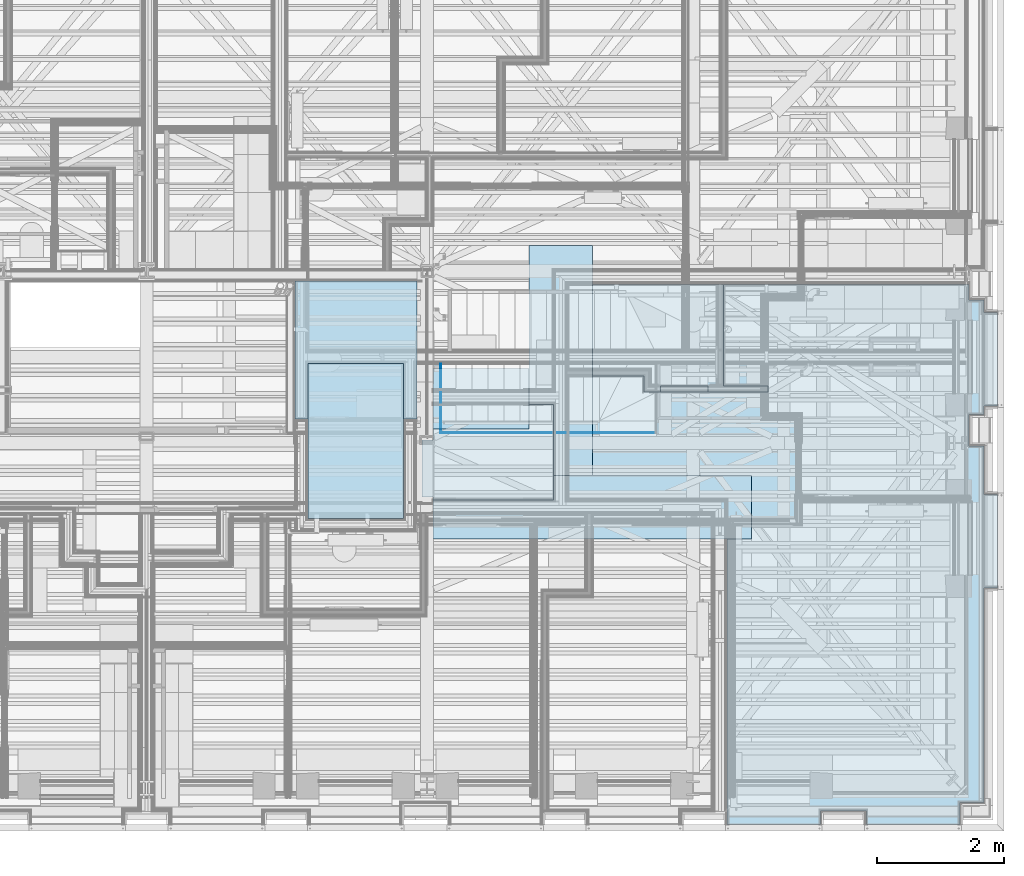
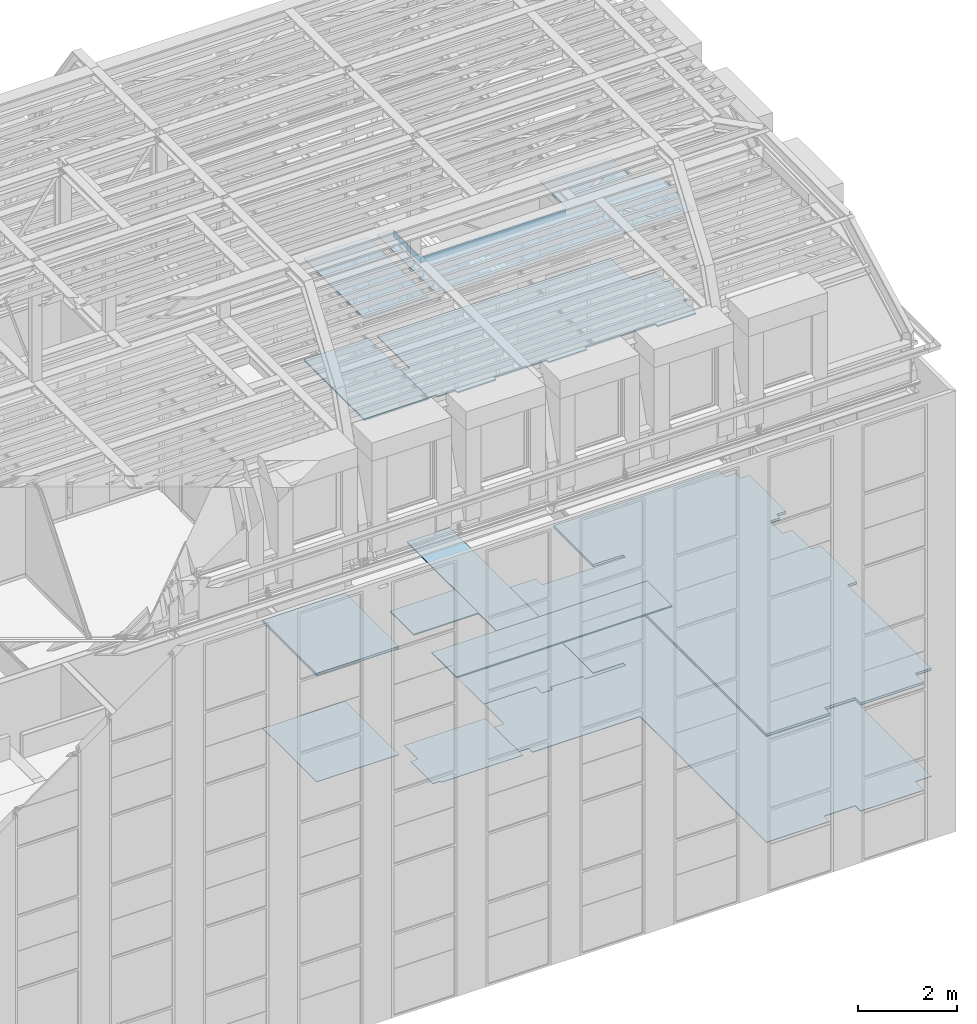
# One storey, part 92 of 183: 22 slabs.
"""IFC2X3 building model written with IfcOpenShell, lengths in metres."""

import ifcopenshell
import ifcopenshell.guid

model = None  # the IFC model being written
_history = None  # IfcOwnerHistory: only IFC2X3 demands one
_inside = {}  # id of a spatial element -> (the spatial element, [elements in it])
_under = {}  # id of a project, library or spatial element -> (it, [spatial elements below it])
_declared = {}  # id of a project -> (the project, [libraries it declares])
_typed = {}  # id of a type object -> (the type object, [elements of that type])
_made_of = {}  # id of a material, layer set ... -> (it, [elements and type objects made of it])


def new_model(schema):
    """Start an empty IFC model of exactly this schema.

    Asked for "IFC4X3", IfcOpenShell would pick the latest addendum, in which some entities
    have other attributes; the version numbers below select the first issue.
    IFC2X3 requires an IfcOwnerHistory on every rooted entity: one is made here for all.
    """
    global model, _history
    if schema == "IFC4X3":
        model = ifcopenshell.file(schema_version=(4, 3, 0, 0))
    else:
        model = ifcopenshell.file(schema=schema)
    _inside.clear()
    _under.clear()
    _declared.clear()
    _typed.clear()
    _made_of.clear()
    _history = None
    if model.schema == "IFC2X3":
        org = make("IfcOrganization", Name="unknown")
        user = make(
            "IfcPersonAndOrganization",
            ThePerson=make("IfcPerson", FamilyName="unknown"),
            TheOrganization=org,
        )
        app = make(
            "IfcApplication",
            ApplicationDeveloper=org,
            Version="unknown",
            ApplicationFullName="unknown",
            ApplicationIdentifier="unknown",
        )
        _history = make(
            "IfcOwnerHistory",
            OwningUser=user,
            OwningApplication=app,
            ChangeAction="ADDED",
            CreationDate=0,
        )
    return model


def make(cls, **values):
    """One entity of the class cls with the attributes given. An attribute that is None is left unset."""
    return model.create_entity(
        cls, **{name: value for name, value in values.items() if value is not None}
    )


def entity(cls, *values):
    """Any entity or typed value of the class cls, its attributes in the order of the schema. None: left unset."""
    e = model.create_entity(cls)
    for i, value in enumerate(values):
        if value is not None:
            e[i] = value
    return e


def rooted(cls, **values):
    """An entity with a GlobalId (a new one), such as an element, a storey or a relation."""
    return make(cls, GlobalId=ifcopenshell.guid.new(), OwnerHistory=_history, **values)


def si_unit(unit_type, name, prefix=None):
    """IfcSIUnit, for example si_unit("LENGTHUNIT", "METRE", prefix="MILLI")."""
    return make("IfcSIUnit", UnitType=unit_type, Prefix=prefix, Name=name)


def converted_unit(unit_type, name, factor, base, dimensions=None, offset=None):
    """IfcConversionBasedUnit, such as the inch: factor (a typed value) times the base unit."""
    return make(
        "IfcConversionBasedUnit"
        if offset is None
        else "IfcConversionBasedUnitWithOffset",
        ConversionOffset=offset,
        Dimensions=None
        if dimensions is None
        else entity("IfcDimensionalExponents", *dimensions),
        UnitType=unit_type,
        Name=name,
        ConversionFactor=make(
            "IfcMeasureWithUnit", ValueComponent=factor, UnitComponent=base
        ),
    )


def derived_unit(unit_type, elements):
    """IfcDerivedUnit: a product of units, each with its exponent."""
    return make(
        "IfcDerivedUnit",
        Elements=[
            make("IfcDerivedUnitElement", Unit=unit, Exponent=power)
            for unit, power in elements
        ],
        UnitType=unit_type,
    )


def money_unit(currency):
    """IfcMonetaryUnit."""
    return make("IfcMonetaryUnit", Currency=currency)


def assignment(units):
    """IfcUnitAssignment: the units of a project."""
    return None if units is None else make("IfcUnitAssignment", Units=units)


def point(xyz):
    """IfcCartesianPoint."""
    return None if xyz is None else make("IfcCartesianPoint", Coordinates=xyz)


def direction(xyz):
    """IfcDirection."""
    return None if xyz is None else make("IfcDirection", DirectionRatios=xyz)


def frame(location, z_axis=None, x_axis=None):
    """IfcAxis2Placement3D, a coordinate frame: its origin and axes. An axis left out is left unset."""
    return make(
        "IfcAxis2Placement3D",
        Location=point(location),
        Axis=direction(z_axis),
        RefDirection=direction(x_axis),
    )


def origin_with_axes():
    """The frame at (0, 0, 0) with the z axis (0, 0, 1) and the x axis (1, 0, 0) written out."""
    return frame((0.0, 0.0, 0.0), z_axis=(0.0, 0.0, 1.0), x_axis=(1.0, 0.0, 0.0))


def place(relative_to, where):
    """IfcLocalPlacement: puts the frame where relative to a parent placement (None: the world)."""
    return make(
        "IfcLocalPlacement", PlacementRelTo=relative_to, RelativePlacement=where
    )


def context(
    kind, dimensions, precision=None, world=None, true_north=None, identifier=None
):
    """IfcGeometricRepresentationContext, for example the 3D "Model" context."""
    return make(
        "IfcGeometricRepresentationContext",
        ContextIdentifier=identifier,
        ContextType=kind,
        CoordinateSpaceDimension=dimensions,
        Precision=precision,
        WorldCoordinateSystem=world,
        TrueNorth=true_north,
    )


def subcontext(parent, identifier, kind, view, scale=None):
    """IfcGeometricRepresentationSubContext, for example "Body" below "Model"."""
    return make(
        "IfcGeometricRepresentationSubContext",
        ContextIdentifier=identifier,
        ContextType=kind,
        ParentContext=parent,
        TargetScale=scale,
        TargetView=view,
    )


def project(units=None, contexts=None):
    """IfcProject with its units and contexts."""
    return rooted(
        "IfcProject",
        Name="project",
        RepresentationContexts=contexts,
        UnitsInContext=assignment(units),
    )


def spatial(cls, under=None, at=None, **own):
    """A site, building, storey or space (cls), placed at a placement, below another one or the project."""
    s = rooted(cls, ObjectPlacement=at, **own)
    if under is not None:
        _under.setdefault(under.id(), (under, []))[1].append(s)
    return s


def faces_of(points, faces, orient=None, outer=None):
    """IfcFace entities. A face is a list of loops; a loop is a list of indices into points, from 0.

    orient and outer hold one flag for each loop. By default every Orientation is true, the
    first loop of a face is its IfcFaceOuterBound and the others are IfcFaceBound.
    """
    made = []
    for i, loops in enumerate(faces):
        bounds = []
        for j, loop in enumerate(loops):
            is_outer = j == 0 if outer is None else outer[i][j]
            bounds.append(
                make(
                    "IfcFaceOuterBound" if is_outer else "IfcFaceBound",
                    Bound=make("IfcPolyLoop", Polygon=[points[k] for k in loop]),
                    Orientation=True if orient is None else orient[i][j],
                )
            )
        made.append(make("IfcFace", Bounds=bounds))
    return made


def faceted_brep(points, faces, orient=None, outer=None, voids=None):
    """IfcFacetedBrep: a solid bounded by flat faces; with voids (closed shells), ...WithVoids."""
    shared = [point(p) for p in points]
    hull = make("IfcClosedShell", CfsFaces=faces_of(shared, faces, orient, outer))
    if voids is None:
        return make("IfcFacetedBrep", Outer=hull)
    return make(
        "IfcFacetedBrepWithVoids",
        Outer=hull,
        Voids=[
            make(cls, CfsFaces=faces_of(shared, fs, o, b)) for cls, fs, o, b in voids
        ],
    )


def shape(context_of_items, identifier, shape_type, items):
    """IfcShapeRepresentation: the items that make up one representation, for example the "Body"."""
    return make(
        "IfcShapeRepresentation",
        ContextOfItems=context_of_items,
        RepresentationIdentifier=identifier,
        RepresentationType=shape_type,
        Items=items,
    )


def material(Name=None, Category=None):
    """IfcMaterial."""
    return make("IfcMaterial", Name=Name, Category=Category)


def made_of(thing, what):
    """Note that an element or type object is made of a material, layer set ...; save() writes the relation."""
    if what is not None:
        _made_of.setdefault(what.id(), (what, []))[1].append(thing)
    return thing


def type_object(cls, material=None, **own):
    """A type object (cls), such as IfcWallType, which elements share."""
    return made_of(rooted(cls, **own), material)


def element(
    cls,
    number,
    at=None,
    inside=None,
    cuts=None,
    type_object=None,
    material=None,
    context=None,
    identifier="Body",
    shape_type=None,
    held_by="IfcProductDefinitionShape",
    body=None,
    shapes=None,
    **own,
):
    """One element of the class cls, such as IfcWall. Its Tag is "e" and its number.

    at: its placement. inside: the storey or other place that contains it. cuts: it is an
    opening in that element (IfcRelVoidsElement). A single representation is given by context,
    identifier, shape_type and body (its items); several are given by shapes. held_by: the class
    of the entity that holds the representations. save() writes the other relations.
    """
    e = rooted(cls, Tag="e%d" % number, ObjectPlacement=at, **own)
    if body is not None:
        shapes = [shape(context, identifier, shape_type, body)]
    if shapes is not None:
        e.Representation = make(held_by, Representations=shapes)
    if inside is not None:
        _inside.setdefault(inside.id(), (inside, []))[1].append(e)
    if cuts is not None:
        rooted(
            "IfcRelVoidsElement", RelatingBuildingElement=cuts, RelatedOpeningElement=e
        )
    if type_object is not None:
        _typed.setdefault(type_object.id(), (type_object, []))[1].append(e)
    return made_of(e, material)


def aggregate(whole, parts):
    """IfcRelAggregates: a whole, such as a stair, and the parts it consists of."""
    return rooted("IfcRelAggregates", RelatingObject=whole, RelatedObjects=parts)


def save(model, path):
    """Write the relations noted so far, then the file.

    IfcRelAggregates (storeys below a building ...), IfcRelContainedInSpatialStructure (elements
    in a storey), IfcRelDefinesByType, IfcRelAssociatesMaterial and IfcRelDeclares: one each for
    every whole, place, type object, material and project.
    """
    for whole, parts in _under.values():
        aggregate(whole, parts)
    for where, things in _inside.values():
        rooted(
            "IfcRelContainedInSpatialStructure",
            RelatedElements=things,
            RelatingStructure=where,
        )
    for kind, things in _typed.values():
        rooted("IfcRelDefinesByType", RelatedObjects=things, RelatingType=kind)
    for what, things in _made_of.values():
        rooted("IfcRelAssociatesMaterial", RelatedObjects=things, RelatingMaterial=what)
    for by, libraries in _declared.values():
        rooted("IfcRelDeclares", RelatingContext=by, RelatedDefinitions=libraries)
    model.write(path)


model = new_model("IFC2X3")

# Units and contexts
model_context = context("Model", 3, precision=1e-05, world=origin_with_axes(), true_north=direction((0.0, 1.0)))
body_context = subcontext(model_context, "Body", "Model", "MODEL_VIEW", scale=1.0)
ifc_project = project(units=[si_unit("LENGTHUNIT", "METRE"), si_unit("AREAUNIT", "SQUARE_METRE"), si_unit("VOLUMEUNIT", "CUBIC_METRE"), si_unit("ABSORBEDDOSEUNIT", "GRAY"), si_unit("AMOUNTOFSUBSTANCEUNIT", "MOLE"), si_unit("DOSEEQUIVALENTUNIT", "SIEVERT"), si_unit("ELECTRICCAPACITANCEUNIT", "FARAD"), si_unit("ELECTRICCHARGEUNIT", "COULOMB"), si_unit("ELECTRICCONDUCTANCEUNIT", "SIEMENS"), si_unit("ELECTRICCURRENTUNIT", "AMPERE"), si_unit("ELECTRICRESISTANCEUNIT", "OHM"), si_unit("ELECTRICVOLTAGEUNIT", "VOLT"), si_unit("ENERGYUNIT", "JOULE"), si_unit("FORCEUNIT", "NEWTON"), si_unit("FREQUENCYUNIT", "HERTZ"), si_unit("ILLUMINANCEUNIT", "LUX"), si_unit("INDUCTANCEUNIT", "HENRY"), si_unit("LUMINOUSFLUXUNIT", "LUMEN"), si_unit("LUMINOUSINTENSITYUNIT", "CANDELA"), si_unit("MAGNETICFLUXDENSITYUNIT", "TESLA"), si_unit("MAGNETICFLUXUNIT", "WEBER"), si_unit("MASSUNIT", "GRAM"), converted_unit("PLANEANGLEUNIT", "degree", entity("IfcReal", 0.0174532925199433), si_unit("PLANEANGLEUNIT", "RADIAN"), dimensions=[0, 0, 0, 0, 0, 0, 0]), si_unit("POWERUNIT", "WATT"), si_unit("PRESSUREUNIT", "PASCAL"), si_unit("RADIOACTIVITYUNIT", "BECQUEREL"), si_unit("SOLIDANGLEUNIT", "STERADIAN"), si_unit("THERMODYNAMICTEMPERATUREUNIT", "KELVIN"), si_unit("TIMEUNIT", "SECOND"), derived_unit("ACCELERATIONUNIT", [(si_unit("LENGTHUNIT", "METRE"), 1), (si_unit("TIMEUNIT", "SECOND"), -2)]), derived_unit("ANGULARVELOCITYUNIT", [(converted_unit("PLANEANGLEUNIT", "degree", entity("IfcReal", 0.0174532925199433), si_unit("PLANEANGLEUNIT", "RADIAN"), dimensions=[0, 0, 0, 0, 0, 0, 0]), 1), (si_unit("TIMEUNIT", "SECOND"), -1)]), derived_unit("CURVATUREUNIT", [(converted_unit("PLANEANGLEUNIT", "degree", entity("IfcReal", 0.0174532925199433), si_unit("PLANEANGLEUNIT", "RADIAN"), dimensions=[0, 0, 0, 0, 0, 0, 0]), 1), (si_unit("LENGTHUNIT", "METRE"), -1)]), derived_unit("DYNAMICVISCOSITYUNIT", [(si_unit("PRESSUREUNIT", "PASCAL"), 1), (si_unit("TIMEUNIT", "SECOND"), 1)]), derived_unit("HEATFLUXDENSITYUNIT", [(si_unit("POWERUNIT", "WATT"), 1), (si_unit("LENGTHUNIT", "METRE"), -2)]), derived_unit("HEATINGVALUEUNIT", [(si_unit("ENERGYUNIT", "JOULE"), 1), (si_unit("MASSUNIT", "GRAM"), -1)]), derived_unit("INTEGERCOUNTRATEUNIT", [(si_unit("TIMEUNIT", "SECOND"), -1)]), derived_unit("IONCONCENTRATIONUNIT", [(si_unit("MASSUNIT", "GRAM"), 1), (si_unit("VOLUMEUNIT", "CUBIC_METRE"), -1)]), derived_unit("ISOTHERMALMOISTURECAPACITYUNIT", [(si_unit("VOLUMEUNIT", "CUBIC_METRE"), 1), (si_unit("MASSUNIT", "GRAM"), -1)]), derived_unit("KINEMATICVISCOSITYUNIT", [(si_unit("AREAUNIT", "SQUARE_METRE"), 1), (si_unit("TIMEUNIT", "SECOND"), -1)]), derived_unit("LINEARFORCEUNIT", [(si_unit("FORCEUNIT", "NEWTON"), 1), (si_unit("LENGTHUNIT", "METRE"), -1)]), derived_unit("LINEARMOMENTUNIT", [(si_unit("FORCEUNIT", "NEWTON"), 1), (si_unit("LENGTHUNIT", "METRE"), -1)]), derived_unit("LINEARSTIFFNESSUNIT", [(si_unit("FORCEUNIT", "NEWTON"), 1), (si_unit("LENGTHUNIT", "METRE"), -1)]), derived_unit("LINEARVELOCITYUNIT", [(si_unit("LENGTHUNIT", "METRE"), 1), (si_unit("TIMEUNIT", "SECOND"), -1)]), derived_unit("LUMINOUSINTENSITYDISTRIBUTIONUNIT", [(si_unit("LUMINOUSINTENSITYUNIT", "CANDELA"), 1), (si_unit("LUMINOUSFLUXUNIT", "LUMEN"), -1)]), derived_unit("MASSDENSITYUNIT", [(si_unit("MASSUNIT", "GRAM"), 1), (si_unit("VOLUMEUNIT", "CUBIC_METRE"), -1)]), derived_unit("MASSFLOWRATEUNIT", [(si_unit("MASSUNIT", "GRAM"), 1), (si_unit("TIMEUNIT", "SECOND"), -1)]), derived_unit("MASSPERLENGTHUNIT", [(si_unit("MASSUNIT", "GRAM"), 1), (si_unit("LENGTHUNIT", "METRE"), -1)]), derived_unit("MODULUSOFELASTICITYUNIT", [(si_unit("FORCEUNIT", "NEWTON"), 1), (si_unit("AREAUNIT", "SQUARE_METRE"), -1)]), derived_unit("MODULUSOFLINEARSUBGRADEREACTIONUNIT", [(si_unit("FORCEUNIT", "NEWTON"), 1), (si_unit("LENGTHUNIT", "METRE"), -2)]), derived_unit("MODULUSOFROTATIONALSUBGRADEREACTIONUNIT", [(si_unit("FORCEUNIT", "NEWTON"), 1), (si_unit("LENGTHUNIT", "METRE"), 1)]), derived_unit("MODULUSOFSUBGRADEREACTIONUNIT", [(si_unit("FORCEUNIT", "NEWTON"), 1), (si_unit("VOLUMEUNIT", "CUBIC_METRE"), -1)]), derived_unit("MOISTUREDIFFUSIVITYUNIT", [(si_unit("VOLUMEUNIT", "CUBIC_METRE"), 1), (si_unit("TIMEUNIT", "SECOND"), -1)]), derived_unit("MOLECULARWEIGHTUNIT", [(si_unit("MASSUNIT", "GRAM"), 1), (si_unit("AMOUNTOFSUBSTANCEUNIT", "MOLE"), -1)]), derived_unit("PLANARFORCEUNIT", [(si_unit("FORCEUNIT", "NEWTON"), 1), (si_unit("LENGTHUNIT", "METRE"), -2)]), derived_unit("ROTATIONALFREQUENCYUNIT", [(si_unit("TIMEUNIT", "SECOND"), -1)]), derived_unit("ROTATIONALMASSUNIT", [(si_unit("MASSUNIT", "GRAM"), 1), (si_unit("LENGTHUNIT", "METRE"), 2)]), derived_unit("ROTATIONALSTIFFNESSUNIT", [(si_unit("FORCEUNIT", "NEWTON"), 1), (si_unit("LENGTHUNIT", "METRE"), 1), (converted_unit("PLANEANGLEUNIT", "degree", entity("IfcReal", 0.0174532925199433), si_unit("PLANEANGLEUNIT", "RADIAN"), dimensions=[0, 0, 0, 0, 0, 0, 0]), -1)]), derived_unit("SECTIONAREAINTEGRALUNIT", [(si_unit("LENGTHUNIT", "METRE"), 5)]), derived_unit("SECTIONMODULUSUNIT", [(si_unit("LENGTHUNIT", "METRE"), 3)]), derived_unit("SHEARMODULUSUNIT", [(si_unit("FORCEUNIT", "NEWTON"), 1), (si_unit("AREAUNIT", "SQUARE_METRE"), -1)]), derived_unit("SOUNDPOWERUNIT", [(si_unit("ENERGYUNIT", "JOULE"), 1), (si_unit("TIMEUNIT", "SECOND"), -1)]), derived_unit("SPECIFICHEATCAPACITYUNIT", [(si_unit("FORCEUNIT", "NEWTON"), 1), (si_unit("MASSUNIT", "GRAM"), -1), (si_unit("THERMODYNAMICTEMPERATUREUNIT", "KELVIN"), -1)]), derived_unit("TEMPERATUREGRADIENTUNIT", [(si_unit("THERMODYNAMICTEMPERATUREUNIT", "KELVIN"), 1), (si_unit("LENGTHUNIT", "METRE"), -1)]), derived_unit("THERMALADMITTANCEUNIT", [(si_unit("POWERUNIT", "WATT"), 1), (si_unit("AREAUNIT", "SQUARE_METRE"), -1), (si_unit("THERMODYNAMICTEMPERATUREUNIT", "KELVIN"), -1)]), derived_unit("THERMALCONDUCTANCEUNIT", [(si_unit("POWERUNIT", "WATT"), 1), (si_unit("LENGTHUNIT", "METRE"), -1), (si_unit("THERMODYNAMICTEMPERATUREUNIT", "KELVIN"), -1)]), derived_unit("THERMALEXPANSIONCOEFFICIENTUNIT", [(si_unit("THERMODYNAMICTEMPERATUREUNIT", "KELVIN"), -1)]), derived_unit("THERMALRESISTANCEUNIT", [(si_unit("AREAUNIT", "SQUARE_METRE"), 1), (si_unit("POWERUNIT", "WATT"), -1)]), derived_unit("THERMALTRANSMITTANCEUNIT", [(si_unit("POWERUNIT", "WATT"), 1), (si_unit("AREAUNIT", "SQUARE_METRE"), -1), (si_unit("THERMODYNAMICTEMPERATUREUNIT", "KELVIN"), -1)]), derived_unit("TORQUEUNIT", [(si_unit("FORCEUNIT", "NEWTON"), 1), (si_unit("LENGTHUNIT", "METRE"), 1)]), derived_unit("VAPORPERMEABILITYUNIT", [(si_unit("MASSUNIT", "GRAM"), 1), (si_unit("TIMEUNIT", "SECOND"), -1)]), derived_unit("VOLUMETRICFLOWRATEUNIT", [(si_unit("VOLUMEUNIT", "CUBIC_METRE"), 1), (si_unit("TIMEUNIT", "SECOND"), -1)]), derived_unit("WARPINGCONSTANTUNIT", [(si_unit("LENGTHUNIT", "METRE"), 6)]), derived_unit("WARPINGMOMENTUNIT", [(si_unit("FORCEUNIT", "NEWTON"), 1), (si_unit("LENGTHUNIT", "METRE"), 2)]), money_unit("GBP")], contexts=[model_context])

# Site, building, storey
site_placement = place(None, origin_with_axes())
site = spatial("IfcSite", under=ifc_project, at=site_placement, Name="Site", CompositionType="ELEMENT")
building_placement = place(site_placement, origin_with_axes())
building = spatial("IfcBuilding", under=site, at=building_placement, Name="Building01", CompositionType="ELEMENT")
storey_placement = place(building_placement, frame((0.0, 0.0, 5.15), z_axis=(0.0, 0.0, 1.0), x_axis=(1.0, 0.0, 0.0)))
storey = spatial("IfcBuildingStorey", under=building, at=storey_placement, Name="1F", CompositionType="ELEMENT", Elevation=5.15)

# Slabs
ifc_material_1 = material(Name="A_BSUK_ExpandedPolystyreneBoards")
slab_type_1 = type_object("IfcSlabType", Name="A-FloorsSlabs A_BSUK_Slabs", PredefinedType="FLOOR")
placement = place(storey_placement, frame((0.0, 0.0, -5.15), z_axis=(0.0, 0.0, 1.0), x_axis=(1.0, 0.0, 0.0)))
element("IfcSlab", 1, at=placement, inside=storey, type_object=slab_type_1, material=ifc_material_1, Name="A-FloorsSlabs A_BSUK_Slabs", ObjectType="CompoundSlabLeaf", context=body_context, shape_type="Brep", body=[
    faceted_brep([(20.122661, 6.357147, 5.15), (20.122661, 6.357147, 5.153), (20.122661, 8.595, 5.153), (20.122661, 8.595, 5.15), (19.897661, 6.357147, 5.15), (19.897661, 6.357147, 5.153), (19.897661, 5.357147, 5.15), (19.897661, 5.357147, 5.153), (20.122661, 5.357147, 5.15), (20.122661, 5.357147, 5.153), (20.122661, 5.205, 5.15), (20.122661, 5.205, 5.153), (22.625, 5.205, 5.15), (22.625, 5.205, 5.153), (22.625, 0.1, 5.15), (22.625, 0.1, 5.153), (24.095, 0.1, 5.15), (24.095, 0.1, 5.153), (24.095, 0.318, 5.15), (24.095, 0.318, 5.153), (24.815, 0.318, 5.15), (24.815, 0.318, 5.153), (24.815, 0.1, 5.15), (24.815, 0.1, 5.153), (26.285, 0.1, 5.15), (26.285, 0.1, 5.153), (26.285, 0.448, 5.15), (26.285, 0.448, 5.153), (26.662, 0.448, 5.15), (26.662, 0.448, 5.153), (26.662, 3.82218, 5.15), (26.662, 3.82218, 5.153), (26.88, 3.82218, 5.15), (26.88, 3.82218, 5.153), (26.88, 5.29218, 5.15), (26.88, 5.29218, 5.153), (26.662, 5.29218, 5.15), (26.662, 5.29218, 5.153), (26.662, 6.052, 5.15), (26.662, 6.052, 5.153), (26.432, 6.052, 5.15), (26.432, 6.052, 5.153), (26.432, 6.548, 5.15), (26.432, 6.548, 5.153), (26.662, 6.548, 5.15), (26.662, 6.548, 5.153), (26.662, 6.682326, 5.15), (26.662, 6.682326, 5.153), (26.88, 6.682326, 5.15), (26.88, 6.682326, 5.153), (26.88, 8.152326, 5.15), (26.88, 8.152326, 5.153), (26.662, 8.152326, 5.15), (26.662, 8.152326, 5.153), (26.662, 8.352, 5.15), (26.662, 8.352, 5.153), (26.432, 8.352, 5.15), (26.432, 8.352, 5.153), (26.432, 8.595, 5.15), (26.432, 8.595, 5.153)], [[[0, 1, 2, 3]], [[4, 5, 1, 0]], [[6, 7, 5, 4]], [[8, 9, 7, 6]], [[10, 11, 9, 8]], [[12, 13, 11, 10]], [[14, 15, 13, 12]], [[16, 17, 15, 14]], [[18, 19, 17, 16]], [[20, 21, 19, 18]], [[22, 23, 21, 20]], [[24, 25, 23, 22]], [[26, 27, 25, 24]], [[28, 29, 27, 26]], [[30, 31, 29, 28]], [[32, 33, 31, 30]], [[34, 35, 33, 32]], [[36, 37, 35, 34]], [[38, 39, 37, 36]], [[40, 41, 39, 38]], [[42, 43, 41, 40]], [[44, 45, 43, 42]], [[46, 47, 45, 44]], [[48, 49, 47, 46]], [[50, 51, 49, 48]], [[52, 53, 51, 50]], [[54, 55, 53, 52]], [[56, 57, 55, 54]], [[58, 59, 57, 56]], [[3, 2, 59, 58]], [[1, 5, 7, 9, 11, 13, 15, 17, 19, 21, 23, 25, 27, 29, 31, 33, 35, 37, 39, 41, 43, 45, 47, 49, 51, 53, 55, 57, 59, 2]], [[3, 58, 56, 54, 52, 50, 48, 46, 44, 42, 40, 38, 36, 34, 32, 30, 28, 26, 24, 22, 20, 18, 16, 14, 12, 10, 8, 6, 4, 0]]]),
])
ifc_material_2 = material(Name="A_BSUK_Ceramic_FloorTiles")
element("IfcSlab", 2, at=placement, inside=storey, type_object=slab_type_1, material=ifc_material_2, Name="A-FloorsSlabs A_BSUK_Slabs", ObjectType="CompoundSlabLeaf", context=body_context, shape_type="Brep", body=[
    faceted_brep([(15.83, 6.475, 5.153), (15.83, 6.475, 5.165), (15.83, 8.65, 5.165), (15.83, 8.65, 5.153), (17.75, 6.475, 5.153), (17.75, 6.475, 5.165), (17.75, 8.65, 5.153), (17.75, 8.65, 5.165)], [[[0, 1, 2, 3]], [[4, 5, 1, 0]], [[6, 7, 5, 4]], [[3, 2, 7, 6]], [[1, 5, 7, 2]], [[3, 6, 4, 0]]]),
])
ifc_material_3 = material(Name="A_BSUK_Parquet_Floor")
element("IfcSlab", 3, at=placement, inside=storey, type_object=slab_type_1, material=ifc_material_3, Name="A-FloorsSlabs A_BSUK_Slabs", ObjectType="CompoundSlabLeaf", context=body_context, shape_type="Brep", body=[
    faceted_brep([(19.897661, 5.357147, 5.153), (19.897661, 5.357147, 5.165), (19.897661, 6.357147, 5.165), (19.897661, 6.357147, 5.153), (20.122661, 5.357147, 5.153), (20.122661, 5.357147, 5.165), (20.122661, 5.205, 5.153), (20.122661, 5.205, 5.165), (22.625, 5.205, 5.153), (22.625, 5.205, 5.165), (22.625, 0.1, 5.153), (22.625, 0.1, 5.165), (24.095, 0.1, 5.153), (24.095, 0.1, 5.165), (24.095, 0.318, 5.153), (24.095, 0.318, 5.165), (24.815, 0.318, 5.153), (24.815, 0.318, 5.165), (24.815, 0.1, 5.153), (24.815, 0.1, 5.165), (26.285, 0.1, 5.153), (26.285, 0.1, 5.165), (26.285, 0.448, 5.153), (26.285, 0.448, 5.165), (26.662, 0.448, 5.153), (26.662, 0.448, 5.165), (26.662, 3.82218, 5.153), (26.662, 3.82218, 5.165), (26.662, 5.29218, 5.153), (26.662, 5.29218, 5.165), (26.662, 6.052, 5.153), (26.662, 6.052, 5.165), (26.432, 6.052, 5.153), (26.432, 6.052, 5.165), (26.432, 6.548, 5.153), (26.432, 6.548, 5.165), (26.662, 6.548, 5.153), (26.662, 6.548, 5.165), (26.662, 6.682326, 5.153), (26.662, 6.682326, 5.165), (26.662, 8.152326, 5.153), (26.662, 8.152326, 5.165), (26.662, 8.352, 5.153), (26.662, 8.352, 5.165), (26.432, 8.352, 5.153), (26.432, 8.352, 5.165), (26.432, 8.595, 5.153), (26.432, 8.595, 5.165), (22.571661, 8.595, 5.153), (22.571661, 8.595, 5.165), (22.571661, 7.0, 5.153), (22.571661, 7.0, 5.165), (23.271529, 7.0, 5.153), (23.271529, 7.0, 5.165), (23.271529, 6.905, 5.153), (23.271529, 6.905, 5.165), (22.326661, 6.905, 5.153), (22.326661, 6.905, 5.165), (22.326661, 7.0, 5.153), (22.326661, 7.0, 5.165), (21.576661, 7.0, 5.153), (21.576661, 7.0, 5.165), (21.576661, 6.905, 5.153), (21.576661, 6.905, 5.165), (21.322661, 6.905, 5.153), (21.322661, 6.905, 5.165), (21.322661, 7.155, 5.153), (21.322661, 7.155, 5.165), (20.122661, 7.155, 5.153), (20.122661, 7.155, 5.165), (20.122661, 6.905, 5.153), (20.122661, 6.905, 5.165), (20.122661, 6.357147, 5.153), (20.122661, 6.357147, 5.165)], [[[0, 1, 2, 3]], [[4, 5, 1, 0]], [[6, 7, 5, 4]], [[8, 9, 7, 6]], [[10, 11, 9, 8]], [[12, 13, 11, 10]], [[14, 15, 13, 12]], [[16, 17, 15, 14]], [[18, 19, 17, 16]], [[20, 21, 19, 18]], [[22, 23, 21, 20]], [[24, 25, 23, 22]], [[26, 27, 25, 24]], [[28, 29, 27, 26]], [[30, 31, 29, 28]], [[32, 33, 31, 30]], [[34, 35, 33, 32]], [[36, 37, 35, 34]], [[38, 39, 37, 36]], [[40, 41, 39, 38]], [[42, 43, 41, 40]], [[44, 45, 43, 42]], [[46, 47, 45, 44]], [[48, 49, 47, 46]], [[50, 51, 49, 48]], [[52, 53, 51, 50]], [[54, 55, 53, 52]], [[56, 57, 55, 54]], [[58, 59, 57, 56]], [[60, 61, 59, 58]], [[62, 63, 61, 60]], [[64, 65, 63, 62]], [[66, 67, 65, 64]], [[68, 69, 67, 66]], [[70, 71, 69, 68]], [[72, 73, 71, 70]], [[3, 2, 73, 72]], [[1, 5, 7, 9, 11, 13, 15, 17, 19, 21, 23, 25, 27, 29, 31, 33, 35, 37, 39, 41, 43, 45, 47, 49, 51, 53, 55, 57, 59, 61, 63, 65, 67, 69, 71, 73, 2]], [[3, 72, 70, 68, 66, 64, 62, 60, 58, 56, 54, 52, 50, 48, 46, 44, 42, 40, 38, 36, 34, 32, 30, 28, 26, 24, 22, 20, 18, 16, 14, 12, 10, 8, 6, 4, 0]]]),
])
ifc_material_4 = material(Name="A_BSUK_Carpet-Pile")
element("IfcSlab", 4, at=placement, inside=storey, type_object=slab_type_1, material=ifc_material_4, Name="A-FloorsSlabs A_BSUK_Slabs", ObjectType="CompoundSlabLeaf", context=body_context, shape_type="Brep", body=[
    faceted_brep([(18.0, 6.705, 5.153), (18.0, 6.705, 5.165), (19.897661, 6.705, 5.165), (19.897661, 6.705, 5.153), (18.0, 6.15, 5.153), (18.0, 6.15, 5.165), (17.83, 6.15, 5.153), (17.83, 6.15, 5.165), (17.83, 5.25, 5.153), (17.83, 5.25, 5.165), (18.0, 5.25, 5.153), (18.0, 5.25, 5.165), (18.0, 5.205, 5.153), (18.0, 5.205, 5.165), (19.897661, 5.205, 5.153), (19.897661, 5.205, 5.165)], [[[0, 1, 2, 3]], [[4, 5, 1, 0]], [[6, 7, 5, 4]], [[8, 9, 7, 6]], [[10, 11, 9, 8]], [[12, 13, 11, 10]], [[14, 15, 13, 12]], [[3, 2, 15, 14]], [[1, 5, 7, 9, 11, 13, 15, 2]], [[3, 14, 12, 10, 8, 6, 4, 0]]]),
])
ifc_material_5 = material(Name="A_BSUK_CeilingSoffitFinishes_Suspended")
element("IfcSlab", 5, at=placement, inside=storey, type_object=slab_type_1, material=ifc_material_5, Name="A-FloorsSlabs A_BSUK_Slabs", ObjectType="CompoundSlabLeaf", context=body_context, shape_type="Brep", body=[
    faceted_brep([(15.83, 6.475, 7.765), (15.83, 6.475, 7.78), (15.83, 8.65, 7.78), (15.83, 8.65, 7.765), (17.75, 6.475, 7.765), (17.75, 6.475, 7.78), (17.75, 8.65, 7.765), (17.75, 8.65, 7.78)], [[[0, 1, 2, 3]], [[4, 5, 1, 0]], [[6, 7, 5, 4]], [[3, 2, 7, 6]], [[1, 5, 7, 2]], [[3, 6, 4, 0]]]),
])
element("IfcSlab", 6, at=placement, inside=storey, type_object=slab_type_1, material=ifc_material_5, Name="A-FloorsSlabs A_BSUK_Slabs", ObjectType="CompoundSlabLeaf", context=body_context, shape_type="Brep", body=[
    faceted_brep([(20.122661, 5.457147, 7.765), (20.122661, 5.457147, 7.78), (20.122661, 6.457147, 7.78), (20.122661, 6.457147, 7.765), (20.122661, 5.205, 7.765), (20.122661, 5.205, 7.78), (22.625, 5.205, 7.765), (22.625, 5.205, 7.78), (22.625, 0.1, 7.765), (22.625, 0.1, 7.78), (24.095, 0.1, 7.765), (24.095, 0.1, 7.78), (24.095, 0.318, 7.765), (24.095, 0.318, 7.78), (24.815, 0.318, 7.765), (24.815, 0.318, 7.78), (24.815, 0.1, 7.765), (24.815, 0.1, 7.78), (26.285, 0.1, 7.765), (26.285, 0.1, 7.78), (26.285, 0.448, 7.765), (26.285, 0.448, 7.78), (26.662, 0.448, 7.765), (26.662, 0.448, 7.78), (26.662, 3.82218, 7.765), (26.662, 3.82218, 7.78), (26.88, 3.82218, 7.765), (26.88, 3.82218, 7.78), (26.88, 5.29218, 7.765), (26.88, 5.29218, 7.78), (26.662, 5.29218, 7.765), (26.662, 5.29218, 7.78), (26.662, 6.052, 7.765), (26.662, 6.052, 7.78), (26.432, 6.052, 7.765), (26.432, 6.052, 7.78), (26.432, 6.548, 7.765), (26.432, 6.548, 7.78), (26.662, 6.548, 7.765), (26.662, 6.548, 7.78), (26.662, 6.682326, 7.765), (26.662, 6.682326, 7.78), (26.88, 6.682326, 7.765), (26.88, 6.682326, 7.78), (26.88, 8.152326, 7.765), (26.88, 8.152326, 7.78), (26.662, 8.152326, 7.765), (26.662, 8.152326, 7.78), (26.662, 8.352, 7.765), (26.662, 8.352, 7.78), (26.432, 8.352, 7.765), (26.432, 8.352, 7.78), (26.432, 8.595, 7.765), (26.432, 8.595, 7.78), (22.571661, 8.595, 7.765), (22.571661, 8.595, 7.78), (22.571661, 7.0, 7.765), (22.571661, 7.0, 7.78), (23.271529, 7.0, 7.765), (23.271529, 7.0, 7.78), (23.271529, 6.955, 7.765), (23.271529, 6.955, 7.78), (23.271529, 6.905, 7.765), (23.271529, 6.905, 7.78), (21.322661, 6.905, 7.765), (21.322661, 6.905, 7.78), (21.322661, 7.155, 7.765), (21.322661, 7.155, 7.78), (20.122661, 7.155, 7.765), (20.122661, 7.155, 7.78)], [[[0, 1, 2, 3]], [[4, 5, 1, 0]], [[6, 7, 5, 4]], [[8, 9, 7, 6]], [[10, 11, 9, 8]], [[12, 13, 11, 10]], [[14, 15, 13, 12]], [[16, 17, 15, 14]], [[18, 19, 17, 16]], [[20, 21, 19, 18]], [[22, 23, 21, 20]], [[24, 25, 23, 22]], [[26, 27, 25, 24]], [[28, 29, 27, 26]], [[30, 31, 29, 28]], [[32, 33, 31, 30]], [[34, 35, 33, 32]], [[36, 37, 35, 34]], [[38, 39, 37, 36]], [[40, 41, 39, 38]], [[42, 43, 41, 40]], [[44, 45, 43, 42]], [[46, 47, 45, 44]], [[48, 49, 47, 46]], [[50, 51, 49, 48]], [[52, 53, 51, 50]], [[54, 55, 53, 52]], [[56, 57, 55, 54]], [[58, 59, 57, 56]], [[60, 61, 59, 58]], [[62, 63, 61, 60]], [[64, 65, 63, 62]], [[66, 67, 65, 64]], [[68, 69, 67, 66]], [[3, 2, 69, 68]], [[1, 5, 7, 9, 11, 13, 15, 17, 19, 21, 23, 25, 27, 29, 31, 33, 35, 37, 39, 41, 43, 45, 47, 49, 51, 53, 55, 57, 59, 61, 63, 65, 67, 69, 2]], [[3, 68, 66, 64, 62, 60, 58, 56, 54, 52, 50, 48, 46, 44, 42, 40, 38, 36, 34, 32, 30, 28, 26, 24, 22, 20, 18, 16, 14, 12, 10, 8, 6, 4, 0]]]),
])
element("IfcSlab", 7, at=placement, inside=storey, type_object=slab_type_1, material=ifc_material_5, Name="A-FloorsSlabs A_BSUK_Slabs", ObjectType="CompoundSlabLeaf", context=body_context, shape_type="Brep", body=[
    faceted_brep([(19.510161, 5.593, 8.115), (19.510161, 5.593, 8.13), (19.510161, 9.2075, 8.13), (19.510161, 9.2075, 8.115), (20.510161, 5.593, 8.115), (20.510161, 5.593, 8.13), (20.510161, 9.2075, 8.115), (20.510161, 9.2075, 8.13)], [[[0, 1, 2, 3]], [[4, 5, 1, 0]], [[6, 7, 5, 4]], [[3, 2, 7, 6]], [[1, 5, 7, 2]], [[3, 6, 4, 0]]]),
])
element("IfcSlab", 8, at=placement, inside=storey, type_object=slab_type_1, material=ifc_material_5, Name="A-FloorsSlabs A_BSUK_Slabs", ObjectType="CompoundSlabLeaf", context=body_context, shape_type="Brep", body=[
    faceted_brep([(18.0, 4.593, 8.115), (18.0, 4.593, 8.13), (18.0, 5.593, 8.13), (18.0, 5.593, 8.115), (23.0125, 4.593, 8.115), (23.0125, 4.593, 8.13), (23.0125, 5.593, 8.115), (23.0125, 5.593, 8.13)], [[[0, 1, 2, 3]], [[4, 5, 1, 0]], [[6, 7, 5, 4]], [[3, 2, 7, 6]], [[1, 5, 7, 2]], [[3, 6, 4, 0]]]),
])
element("IfcSlab", 9, at=placement, inside=storey, type_object=slab_type_1, material=ifc_material_5, Name="A-FloorsSlabs A_BSUK_Slabs", ObjectType="CompoundSlabLeaf", context=body_context, shape_type="Brep", body=[
    faceted_brep([(18.0, 6.3175, 8.115), (18.0, 6.3175, 8.13), (18.0, 7.27, 8.13), (18.0, 7.27, 8.115), (19.510161, 6.3175, 8.115), (19.510161, 6.3175, 8.13), (19.510161, 7.27, 8.115), (19.510161, 7.27, 8.13)], [[[0, 1, 2, 3]], [[4, 5, 1, 0]], [[6, 7, 5, 4]], [[3, 2, 7, 6]], [[1, 5, 7, 2]], [[3, 6, 4, 0]]]),
])
element("IfcSlab", 10, at=placement, inside=storey, type_object=slab_type_1, material=ifc_material_5, Name="A-FloorsSlabs A_BSUK_Slabs", ObjectType="CompoundSlabLeaf", context=body_context, shape_type="Brep", body=[
    faceted_brep([(19.510161, 5.593, 8.1), (19.510161, 5.593, 8.115), (19.510161, 9.2075, 8.115), (19.510161, 9.2075, 8.1), (20.510161, 5.593, 8.1), (20.510161, 5.593, 8.115), (20.510161, 9.2075, 8.1), (20.510161, 9.2075, 8.115)], [[[0, 1, 2, 3]], [[4, 5, 1, 0]], [[6, 7, 5, 4]], [[3, 2, 7, 6]], [[1, 5, 7, 2]], [[3, 6, 4, 0]]]),
])
element("IfcSlab", 11, at=placement, inside=storey, type_object=slab_type_1, material=ifc_material_5, Name="A-FloorsSlabs A_BSUK_Slabs", ObjectType="CompoundSlabLeaf", context=body_context, shape_type="Brep", body=[
    faceted_brep([(18.0, 4.593, 8.1), (18.0, 4.593, 8.115), (18.0, 5.593, 8.115), (18.0, 5.593, 8.1), (23.0125, 4.593, 8.1), (23.0125, 4.593, 8.115), (23.0125, 5.593, 8.1), (23.0125, 5.593, 8.115)], [[[0, 1, 2, 3]], [[4, 5, 1, 0]], [[6, 7, 5, 4]], [[3, 2, 7, 6]], [[1, 5, 7, 2]], [[3, 6, 4, 0]]]),
])
element("IfcSlab", 12, at=placement, inside=storey, type_object=slab_type_1, material=ifc_material_5, Name="A-FloorsSlabs A_BSUK_Slabs", ObjectType="CompoundSlabLeaf", context=body_context, shape_type="Brep", body=[
    faceted_brep([(18.0, 6.3175, 8.1), (18.0, 6.3175, 8.115), (18.0, 7.27, 8.115), (18.0, 7.27, 8.1), (19.510161, 6.3175, 8.1), (19.510161, 6.3175, 8.115), (19.510161, 7.27, 8.1), (19.510161, 7.27, 8.115)], [[[0, 1, 2, 3]], [[4, 5, 1, 0]], [[6, 7, 5, 4]], [[3, 2, 7, 6]], [[1, 5, 7, 2]], [[3, 6, 4, 0]]]),
])
element("IfcSlab", 13, at=placement, inside=storey, type_object=slab_type_1, material=ifc_material_5, Name="A-FloorsSlabs A_BSUK_Slabs", ObjectType="CompoundSlabLeaf", context=body_context, shape_type="Brep", body=[
    faceted_brep([(16.03844, 7.349915, 17.423), (16.03844, 7.349915, 17.438), (17.53844, 7.349915, 17.438), (17.53844, 7.349915, 17.423), (16.03844, 4.917, 17.423), (16.03844, 4.917, 17.438), (17.53844, 4.917, 17.423), (17.53844, 4.917, 17.438)], [[[0, 1, 2, 3]], [[4, 5, 1, 0]], [[6, 7, 5, 4]], [[3, 2, 7, 6]], [[1, 5, 7, 2]], [[3, 6, 4, 0]]]),
])
element("IfcSlab", 14, at=placement, inside=storey, type_object=slab_type_1, material=ifc_material_5, Name="A-FloorsSlabs A_BSUK_Slabs", ObjectType="CompoundSlabLeaf", context=body_context, shape_type="Brep", body=[
    faceted_brep([(17.73844, 7.349915, 17.423), (17.73844, 7.349915, 17.438), (18.11844, 7.349915, 17.438), (18.11844, 7.349915, 17.423), (17.73844, 4.897, 17.423), (17.73844, 4.897, 17.438), (23.71, 4.897, 17.423), (23.71, 4.897, 17.438), (23.71, 6.470085, 17.423), (23.71, 6.470085, 17.438), (23.178821, 6.470085, 17.423), (23.178821, 6.470085, 17.438), (23.178821, 7.349915, 17.423), (23.178821, 7.349915, 17.438), (21.51844, 7.349915, 17.423), (21.51844, 7.349915, 17.438), (21.51844, 6.252627, 17.423), (21.51844, 6.252627, 17.438), (18.11844, 6.252627, 17.423), (18.11844, 6.252627, 17.438)], [[[0, 1, 2, 3]], [[4, 5, 1, 0]], [[6, 7, 5, 4]], [[8, 9, 7, 6]], [[10, 11, 9, 8]], [[12, 13, 11, 10]], [[14, 15, 13, 12]], [[16, 17, 15, 14]], [[18, 19, 17, 16]], [[3, 2, 19, 18]], [[1, 5, 7, 9, 11, 13, 15, 17, 19, 2]], [[3, 18, 16, 14, 12, 10, 8, 6, 4, 0]]]),
])
element("IfcSlab", 15, at=placement, inside=storey, type_object=slab_type_1, material=ifc_material_1, Name="A-FloorsSlabs A_BSUK_Slabs", ObjectType="CompoundSlabLeaf", context=body_context, shape_type="Brep", body=[
    faceted_brep([(16.03844, 7.349915, 14.92), (16.03844, 7.349915, 14.952), (17.53844, 7.349915, 14.952), (17.53844, 7.349915, 14.92), (16.03844, 4.917, 14.92), (16.03844, 4.917, 14.952), (17.53844, 4.917, 14.92), (17.53844, 4.917, 14.952)], [[[0, 1, 2, 3]], [[4, 5, 1, 0]], [[6, 7, 5, 4]], [[3, 2, 7, 6]], [[1, 5, 7, 2]], [[3, 6, 4, 0]]]),
])
element("IfcSlab", 16, at=placement, inside=storey, type_object=slab_type_1, material=ifc_material_1, Name="A-FloorsSlabs A_BSUK_Slabs", ObjectType="CompoundSlabLeaf", context=body_context, shape_type="Brep", body=[
    faceted_brep([(17.73844, 7.349915, 14.92), (17.73844, 7.349915, 14.952), (18.11844, 7.349915, 14.952), (18.11844, 7.349915, 14.92), (17.73844, 6.028, 14.92), (17.73844, 6.028, 14.952), (17.53844, 6.028, 14.92), (17.53844, 6.028, 14.952), (17.53844, 4.944, 14.92), (17.53844, 4.944, 14.952), (17.73844, 4.944, 14.92), (17.73844, 4.944, 14.952), (17.73844, 4.897, 14.92), (17.73844, 4.897, 14.952), (18.149976, 4.897, 14.92), (18.149976, 4.897, 14.952), (18.149976, 4.817, 14.92), (18.149976, 4.817, 14.952), (19.049976, 4.817, 14.92), (19.049976, 4.817, 14.952), (19.049976, 4.897, 14.92), (19.049976, 4.897, 14.952), (20.269976, 4.897, 14.92), (20.269976, 4.897, 14.952), (20.269976, 4.817, 14.92), (20.269976, 4.817, 14.952), (21.169976, 4.817, 14.92), (21.169976, 4.817, 14.952), (21.169976, 4.897, 14.92), (21.169976, 4.897, 14.952), (22.81, 4.897, 14.92), (22.81, 4.897, 14.952), (22.81, 4.817, 14.92), (22.81, 4.817, 14.952), (23.71, 4.817, 14.92), (23.71, 4.817, 14.952), (23.71, 4.897, 14.92), (23.71, 4.897, 14.952), (23.71, 5.330939, 14.92), (23.71, 5.330939, 14.952), (23.79, 5.330939, 14.92), (23.79, 5.330939, 14.952), (23.79, 6.080939, 14.92), (23.79, 6.080939, 14.952), (23.71, 6.080939, 14.92), (23.71, 6.080939, 14.952), (23.71, 6.470085, 14.92), (23.71, 6.470085, 14.952), (23.178821, 6.470085, 14.92), (23.178821, 6.470085, 14.952), (23.178821, 7.349915, 14.92), (23.178821, 7.349915, 14.952), (21.51844, 7.349915, 14.92), (21.51844, 7.349915, 14.952)], [[[0, 1, 2, 3]], [[4, 5, 1, 0]], [[6, 7, 5, 4]], [[8, 9, 7, 6]], [[10, 11, 9, 8]], [[12, 13, 11, 10]], [[14, 15, 13, 12]], [[16, 17, 15, 14]], [[18, 19, 17, 16]], [[20, 21, 19, 18]], [[22, 23, 21, 20]], [[24, 25, 23, 22]], [[26, 27, 25, 24]], [[28, 29, 27, 26]], [[30, 31, 29, 28]], [[32, 33, 31, 30]], [[34, 35, 33, 32]], [[36, 37, 35, 34]], [[38, 39, 37, 36]], [[40, 41, 39, 38]], [[42, 43, 41, 40]], [[44, 45, 43, 42]], [[46, 47, 45, 44]], [[48, 49, 47, 46]], [[50, 51, 49, 48]], [[52, 53, 51, 50]], [[3, 2, 53, 52]], [[1, 5, 7, 9, 11, 13, 15, 17, 19, 21, 23, 25, 27, 29, 31, 33, 35, 37, 39, 41, 43, 45, 47, 49, 51, 53, 2]], [[3, 52, 50, 48, 46, 44, 42, 40, 38, 36, 34, 32, 30, 28, 26, 24, 22, 20, 18, 16, 14, 12, 10, 8, 6, 4, 0]]]),
])
element("IfcSlab", 17, at=placement, inside=storey, type_object=slab_type_1, material=ifc_material_5, Name="A-FloorsSlabs A_BSUK_Slabs", ObjectType="CompoundSlabLeaf", context=body_context, shape_type="Brep", body=[
    faceted_brep([(16.03844, 7.349915, 17.438), (16.03844, 7.349915, 17.453), (17.53844, 7.349915, 17.453), (17.53844, 7.349915, 17.438), (16.03844, 4.917, 17.438), (16.03844, 4.917, 17.453), (17.53844, 4.917, 17.438), (17.53844, 4.917, 17.453)], [[[0, 1, 2, 3]], [[4, 5, 1, 0]], [[6, 7, 5, 4]], [[3, 2, 7, 6]], [[1, 5, 7, 2]], [[3, 6, 4, 0]]]),
])
element("IfcSlab", 18, at=placement, inside=storey, type_object=slab_type_1, material=ifc_material_5, Name="A-FloorsSlabs A_BSUK_Slabs", ObjectType="CompoundSlabLeaf", context=body_context, shape_type="Brep", body=[
    faceted_brep([(21.50344, 6.252627, 17.258), (21.50344, 6.267627, 17.258), (21.50344, 6.267627, 17.403), (21.50344, 6.252627, 17.403), (18.13344, 6.252627, 17.258), (18.13344, 6.267627, 17.258), (18.13344, 6.252627, 17.403), (18.13344, 6.267627, 17.403)], [[[0, 1, 2, 3]], [[4, 5, 1, 0]], [[6, 7, 5, 4]], [[3, 2, 7, 6]], [[1, 5, 7, 2]], [[3, 6, 4, 0]]]),
])
element("IfcSlab", 19, at=placement, inside=storey, type_object=slab_type_1, material=ifc_material_5, Name="A-FloorsSlabs A_BSUK_Slabs", ObjectType="CompoundSlabLeaf", context=body_context, shape_type="Brep", body=[
    faceted_brep([(18.13344, 7.349939, 17.258), (18.11844, 7.349939, 17.258), (18.11844, 7.349939, 17.403), (18.13344, 7.349939, 17.403), (18.13344, 6.252627, 17.258), (18.11844, 6.252627, 17.258), (18.13344, 6.252627, 17.403), (18.11844, 6.252627, 17.403)], [[[0, 1, 2, 3]], [[4, 5, 1, 0]], [[6, 7, 5, 4]], [[3, 2, 7, 6]], [[1, 5, 7, 2]], [[3, 6, 4, 0]]]),
])
slab_type_2 = type_object("IfcSlabType", Name="A-FloorsSlabs A_BSUK_ExpandedPolystyreneBoards", PredefinedType="FLOOR")
element("IfcSlab", 20, at=placement, inside=storey, type_object=slab_type_2, material=ifc_material_1, Name="A-FloorsSlabs A_BSUK_ExpandedPolystyreneBoards", ObjectType="CompoundSlabLeaf", context=body_context, shape_type="Brep", body=[
    faceted_brep([(15.83, 6.475, 7.78), (15.83, 6.475, 7.83), (15.83, 8.65, 7.83), (15.83, 8.65, 7.78), (17.75, 6.475, 7.78), (17.75, 6.475, 7.83), (17.75, 8.65, 7.78), (17.75, 8.65, 7.83)], [[[0, 1, 2, 3]], [[4, 5, 1, 0]], [[6, 7, 5, 4]], [[3, 2, 7, 6]], [[1, 5, 7, 2]], [[3, 6, 4, 0]]]),
])
element("IfcSlab", 21, at=placement, inside=storey, type_object=slab_type_2, material=ifc_material_1, Name="A-FloorsSlabs A_BSUK_ExpandedPolystyreneBoards", ObjectType="CompoundSlabLeaf", context=body_context, shape_type="Brep", body=[
    faceted_brep([(20.122661, 5.457147, 7.78), (20.122661, 5.457147, 7.83), (20.122661, 6.457147, 7.83), (20.122661, 6.457147, 7.78), (20.122661, 5.205, 7.78), (20.122661, 5.205, 7.83), (22.625, 5.205, 7.78), (22.625, 5.205, 7.83), (22.625, 0.1, 7.78), (22.625, 0.1, 7.83), (24.095, 0.1, 7.78), (24.095, 0.1, 7.83), (24.095, 0.318, 7.78), (24.095, 0.318, 7.83), (24.815, 0.318, 7.78), (24.815, 0.318, 7.83), (24.815, 0.1, 7.78), (24.815, 0.1, 7.83), (26.285, 0.1, 7.78), (26.285, 0.1, 7.83), (26.285, 0.448, 7.78), (26.285, 0.448, 7.83), (26.662, 0.448, 7.78), (26.662, 0.448, 7.83), (26.662, 3.82218, 7.78), (26.662, 3.82218, 7.83), (26.88, 3.82218, 7.78), (26.88, 3.82218, 7.83), (26.88, 5.29218, 7.78), (26.88, 5.29218, 7.83), (26.662, 5.29218, 7.78), (26.662, 5.29218, 7.83), (26.662, 6.052, 7.78), (26.662, 6.052, 7.83), (26.432, 6.052, 7.78), (26.432, 6.052, 7.83), (26.432, 6.548, 7.78), (26.432, 6.548, 7.83), (26.662, 6.548, 7.78), (26.662, 6.548, 7.83), (26.662, 6.682326, 7.78), (26.662, 6.682326, 7.83), (26.88, 6.682326, 7.78), (26.88, 6.682326, 7.83), (26.88, 8.152326, 7.78), (26.88, 8.152326, 7.83), (26.662, 8.152326, 7.78), (26.662, 8.152326, 7.83), (26.662, 8.352, 7.78), (26.662, 8.352, 7.83), (26.432, 8.352, 7.78), (26.432, 8.352, 7.83), (26.432, 8.595, 7.78), (26.432, 8.595, 7.83), (22.571661, 8.595, 7.78), (22.571661, 8.595, 7.83), (22.571661, 7.0, 7.78), (22.571661, 7.0, 7.83), (23.271529, 7.0, 7.78), (23.271529, 7.0, 7.83), (23.271529, 6.955, 7.78), (23.271529, 6.955, 7.83), (23.271529, 6.905, 7.78), (23.271529, 6.905, 7.83), (21.322661, 6.905, 7.78), (21.322661, 6.905, 7.83), (21.322661, 7.155, 7.78), (21.322661, 7.155, 7.83), (20.122661, 7.155, 7.78), (20.122661, 7.155, 7.83)], [[[0, 1, 2, 3]], [[4, 5, 1, 0]], [[6, 7, 5, 4]], [[8, 9, 7, 6]], [[10, 11, 9, 8]], [[12, 13, 11, 10]], [[14, 15, 13, 12]], [[16, 17, 15, 14]], [[18, 19, 17, 16]], [[20, 21, 19, 18]], [[22, 23, 21, 20]], [[24, 25, 23, 22]], [[26, 27, 25, 24]], [[28, 29, 27, 26]], [[30, 31, 29, 28]], [[32, 33, 31, 30]], [[34, 35, 33, 32]], [[36, 37, 35, 34]], [[38, 39, 37, 36]], [[40, 41, 39, 38]], [[42, 43, 41, 40]], [[44, 45, 43, 42]], [[46, 47, 45, 44]], [[48, 49, 47, 46]], [[50, 51, 49, 48]], [[52, 53, 51, 50]], [[54, 55, 53, 52]], [[56, 57, 55, 54]], [[58, 59, 57, 56]], [[60, 61, 59, 58]], [[62, 63, 61, 60]], [[64, 65, 63, 62]], [[66, 67, 65, 64]], [[68, 69, 67, 66]], [[3, 2, 69, 68]], [[1, 5, 7, 9, 11, 13, 15, 17, 19, 21, 23, 25, 27, 29, 31, 33, 35, 37, 39, 41, 43, 45, 47, 49, 51, 53, 55, 57, 59, 61, 63, 65, 67, 69, 2]], [[3, 68, 66, 64, 62, 60, 58, 56, 54, 52, 50, 48, 46, 44, 42, 40, 38, 36, 34, 32, 30, 28, 26, 24, 22, 20, 18, 16, 14, 12, 10, 8, 6, 4, 0]]]),
])
slab_type_3 = type_object("IfcSlabType", Name="A-Finishes A_BSUK_Carpet-Pile", PredefinedType="FLOOR")
element("IfcSlab", 22, at=placement, inside=storey, type_object=slab_type_3, material=ifc_material_4, Name="A-Finishes A_BSUK_Carpet-Pile", ObjectType="CompoundSlabLeaf", context=body_context, shape_type="Brep", body=[
    faceted_brep([(16.03844, 7.349915, 14.952), (16.03844, 7.349915, 14.964), (17.53844, 7.349915, 14.964), (17.53844, 7.349915, 14.952), (16.03844, 4.917, 14.952), (16.03844, 4.917, 14.964), (17.53844, 4.917, 14.952), (17.53844, 4.917, 14.964)], [[[0, 1, 2, 3]], [[4, 5, 1, 0]], [[6, 7, 5, 4]], [[3, 2, 7, 6]], [[1, 5, 7, 2]], [[3, 6, 4, 0]]]),
])

save(model, "model.ifc")
